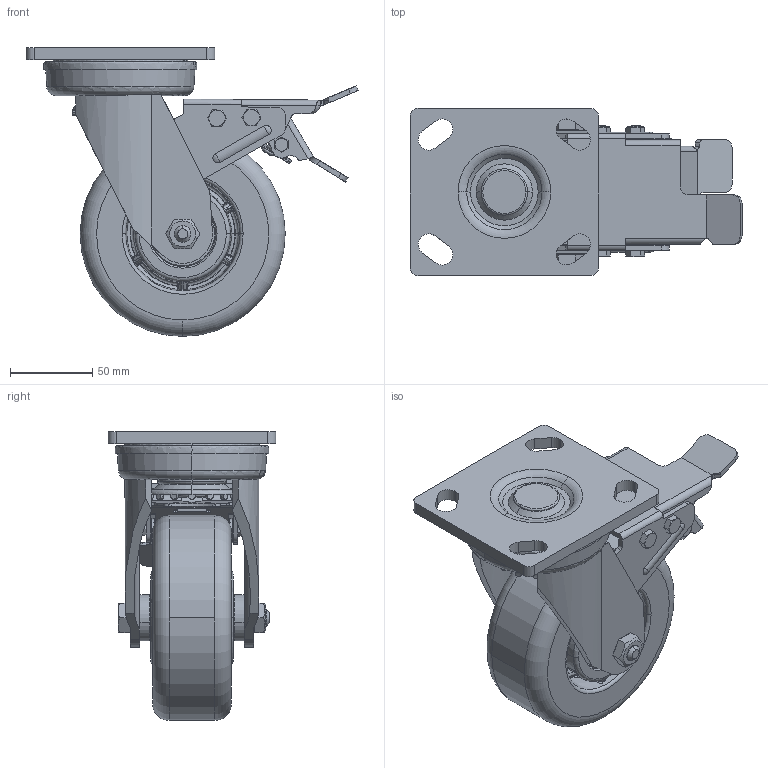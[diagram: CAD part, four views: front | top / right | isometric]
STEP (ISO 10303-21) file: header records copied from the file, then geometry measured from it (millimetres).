
FILE_DESCRIPTION (( 'STEP AP203' ), '1' );
FILE_NAME ('36A5寸刹车（小底板）.STEP', '2026-03-13T01:22:45', ( 'MUSE' ), ( 'MUSE' ), 'SwSTEP 2.0', 'SolidWorks 2024', '' );
FILE_SCHEMA (( 'CONFIG_CONTROL_DESIGN' ));
Products named in the file (1): 36A5寸刹车（小底板）
Bounding box: 202.33 x 102 x 176 mm (x, y, z)
Volume: 830487.8 mm3; surface area: 214187.9 mm2
Topology: 1 solids, 6 shells, 1834 faces, 4824 edges, 3038 vertices
Faces by surface type: cylinder 707, plane 654, bspline 242, cone 126, torus 101, sphere 4
Entity records: 75691 total; most frequent: CARTESIAN_POINT 32319, ORIENTED_EDGE 9648, DIRECTION 8500, EDGE_CURVE 4824, AXIS2_PLACEMENT_3D 3277, VERTEX_POINT 3038, EDGE_LOOP 1968, VECTOR 1946
